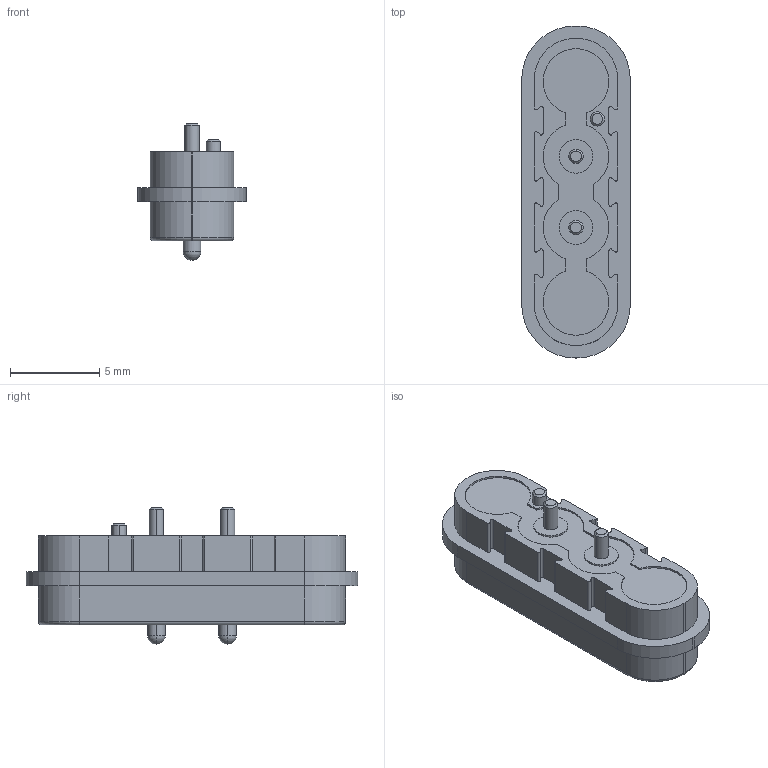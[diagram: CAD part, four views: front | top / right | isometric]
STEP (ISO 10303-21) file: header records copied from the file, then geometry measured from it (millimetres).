
FILE_DESCRIPTION((''),'2;1');
FILE_NAME('FROS_ASM','2025-11-20T',('fros.liao'),(''),'CREO PARAMETRIC BY PTC INC, 2018360','CREO PARAMETRIC BY PTC INC, 2018360','');
FILE_SCHEMA(('CONFIG_CONTROL_DESIGN'));
Length unit declared in the file: millimetre
Products named in the file (6): POGOPIN-0507_1; MAGNET-0507_N_1; HSG-2P-0507_-MALE_1; MAGNET-0507_S_1; GLUE-2P-0507_1; FROS_ASM
Assembly tree (6 placements, depth 2):
  FROS_ASM
    POGOPIN-0507_1  x2
    MAGNET-0507_N_1
    HSG-2P-0507_-MALE_1
    MAGNET-0507_S_1
    GLUE-2P-0507_1
Bounding box: 6.1 x 18.65 x 7.7 mm (x, y, z)
Volume: 391.6 mm3; surface area: 904.5 mm2
Topology: 6 solids, 6 shells, 278 faces, 690 edges, 436 vertices
Faces by surface type: cylinder 124, plane 96, cone 30, torus 12, extrusion 12, sphere 4
Entity records: 8068 total; most frequent: CARTESIAN_POINT 1853, DIRECTION 1344, ORIENTED_EDGE 1232, EDGE_CURVE 616, AXIS2_PLACEMENT_3D 497, VERTEX_POINT 395, VECTOR 350, LINE 338
